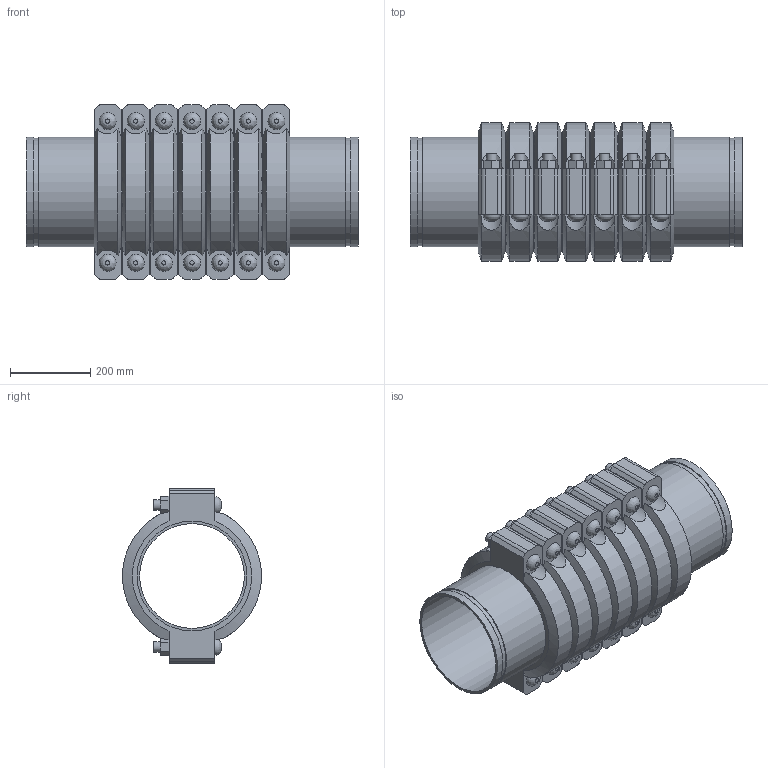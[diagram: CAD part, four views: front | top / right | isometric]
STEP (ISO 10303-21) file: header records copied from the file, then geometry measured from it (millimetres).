
FILE_DESCRIPTION(/* description */ ('VIC EXPANSION JOINT 7 COUPLINGS COMPRESSED STYLE 155 (OGS)','CAx-IF Rec.Pracs.---Representation and Presentation of Product Manufacturing Information (PMI)---4.0---2014-10-13'),/* implementation_level */ '2;1');
FILE_NAME(/* name */ 'C:\Users\kkamble\AppData\Roaming\Autodesk\ApplicationPlugins\Victaulic.Temp\A262\Victaulic_IPS_Expansion Joint_Compressed_7 Couplings_Style 155 (OGS)_10 (250).stp',/* time_stamp */ '2021-06-27T00:34:31+02:00',/* author */ ('kkamble'),/* organization */ ('Victaulic'),/* preprocessor_version */ 'ST-DEVELOPER v17.2',/* originating_system */ 'Autodesk Inventor 2019',/* authorisation */ '');
FILE_SCHEMA (('AP242_MANAGED_MODEL_BASED_3D_ENGINEERING_MIM_LF { 1 0 10303 442 1 1 4 }'));
Length unit declared in the file: inch
Products named in the file (4): 155-10.0; Nipple-10.0; Nipple-10.0_1; 077-7 Coup-10.0
Assembly tree (15 placements, depth 2):
  155-10.0
    Nipple-10.0  x2
    Nipple-10.0_1  x6
    077-7 Coup-10.0  x7
Bounding box: 825.5 x 344.9 x 435.1 mm (x, y, z)
Volume: 24422511.5 mm3; surface area: 3481788.9 mm2
Topology: 15 solids, 29 shells, 523 faces, 1255 edges, 878 vertices
Faces by surface type: plane 300, cylinder 181, cone 28, bspline 14
Full cylindrical faces by diameter (mm): 25.4 x28, 27.432 x14, 260.35 x8, 264.16 x7, 268.275 x16, 273.05 x38
Entity records: 3114 total; most frequent: CARTESIAN_POINT 679, DIRECTION 485, ORIENTED_EDGE 410, EDGE_CURVE 205, AXIS2_PLACEMENT_3D 198, VERTEX_POINT 146, EDGE_LOOP 111, CIRCLE 96
